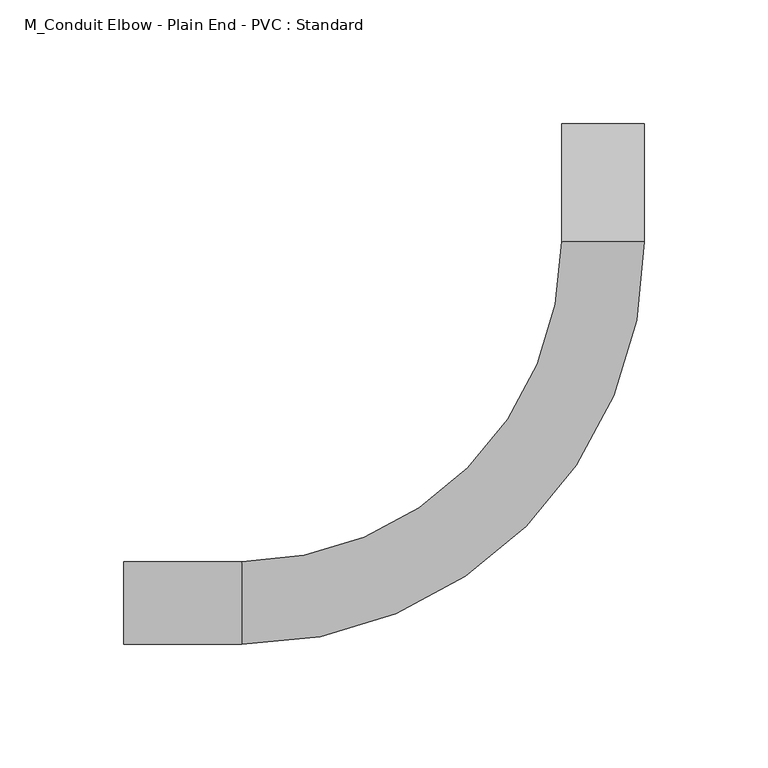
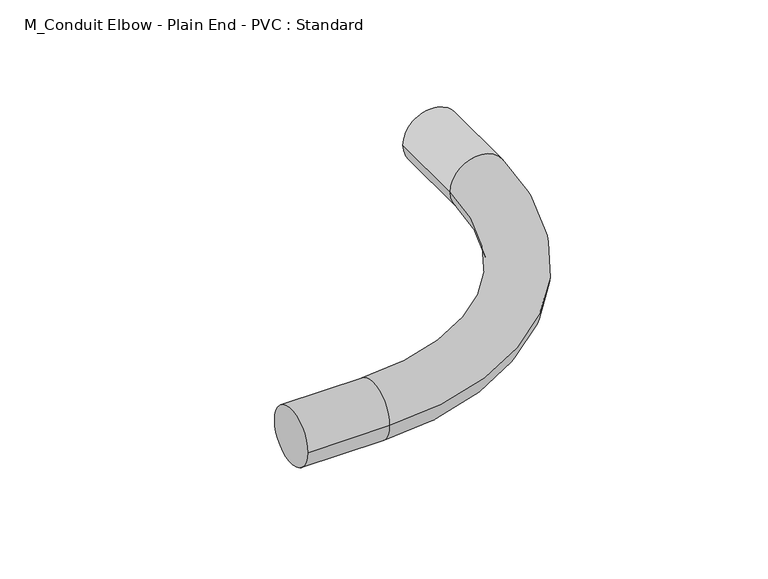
"""IFC4 building model written with IfcOpenShell, lengths in millimetres: cable carrier fitting geometry, M_Conduit Elbow - Plain End - PVC : Standard."""

from ifc_helpers import new_model, si_unit, point, frame, origin, place, context, project, spatial, circle_curve, ellipse_curve, trimmed, source, transform, mapped, element, save
from ifc_brep_helpers import plane_surface, cylinder_surface, revolved_surface, advanced_brep


def m_conduit_elbow_plain_end_pvc_standard_19d8f5be(model_context):
    return source(origin(), model_context, "Body", "AdvancedBrep", [
        advanced_brep(
        [(-193.6750038, -16.7005, 0.0), (-193.6750038, 16.7005, 0.0), (-146.0500038, -16.7005, 0.0), (-146.0500038, 16.7005, 0.0), (-16.7005038, 146.0500033, 0.0), (16.7004962, 146.0500042, 0.0), (16.700495, 193.6750042, 0.0), (-16.700505, 193.6750033, 0.0)],
        [
            (0, 1, circle_curve(frame((-193.6750038, 0.0, 0.0), z_axis=(-1.0, 0.0, 0.0), x_axis=(0.0, 1.0, 0.0)), 16.7005)),
            (1, 0, circle_curve(frame((-193.6750038, 0.0, 0.0), z_axis=(-1.0, 0.0, 0.0), x_axis=(0.0, 1.0, 0.0)), 16.7005)),
            (0, 2),
            (2, 3, circle_curve(frame((-146.0500038, 0.0, 0.0), z_axis=(-1.0, 0.0, 0.0), x_axis=(0.0, 1.0, 0.0)), 16.7005)),
            (3, 1),
            (3, 2, circle_curve(frame((-146.0500038, 0.0, 0.0), z_axis=(-1.0, 0.0, 0.0), x_axis=(0.0, 1.0, 0.0)), 16.7005)),
            (4, 3, circle_curve(frame((-146.0500038, 146.05, 0.0), z_axis=(0.0, 0.0, -1.0), x_axis=(0.0, -1.0, 0.0)), 129.3495)),
            (2, 5, circle_curve(frame((-146.0500038, 146.05, 0.0), z_axis=(0.0, 0.0, 1.0), x_axis=(0.0, -1.0, 0.0)), 162.7505)),
            (5, 4, circle_curve(frame((-3.8e-06, 146.0500038, 0.0), z_axis=(2.5772863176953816e-08, -0.9999999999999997, 0.0), x_axis=(-0.9999999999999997, -2.5772863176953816e-08, 0.0)), 16.7005)),
            (4, 5, circle_curve(frame((-3.8e-06, 146.0500038, 0.0), z_axis=(2.5772863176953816e-08, -0.9999999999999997, 0.0), x_axis=(-0.9999999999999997, -2.5772863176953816e-08, 0.0)), 16.7005)),
            (6, 7, circle_curve(frame((-5e-06, 193.6750038, 0.0), z_axis=(-2.5772863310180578e-08, 0.9999999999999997, 0.0), x_axis=(-0.9999999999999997, -2.5772863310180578e-08, 0.0)), 16.7005)),
            (7, 6, circle_curve(frame((-5e-06, 193.6750038, 0.0), z_axis=(-2.5772863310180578e-08, 0.9999999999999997, 0.0), x_axis=(-0.9999999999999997, -2.5772863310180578e-08, 0.0)), 16.7005)),
            (5, 6),
            (7, 4),
        ],
        [
            plane_surface(frame((-193.6750038, 0.0, 0.0), z_axis=(-1.0, 0.0, 0.0), x_axis=(0.0, 0.0, 1.0))),
            cylinder_surface(frame((-193.6750038, 0.0, 0.0), z_axis=(-1.0, 0.0, 0.0), x_axis=(0.0, 1.0, 0.0)), 16.7005),
            revolved_surface(trimmed(ellipse_curve(frame((-146.0500038, 0.0, 0.0), z_axis=(-1.0, 0.0, 0.0), x_axis=(0.0, 1.0, 0.0)), 16.7005, 16.7005), [point((-146.0500038, -16.7005, 0.0))], [point((-146.0500038, 16.7005, 0.0))], True, "CARTESIAN"), (-146.0500038, 146.05, 0.0), (0.0, 0.0, 1.0)),
            revolved_surface(trimmed(ellipse_curve(frame((-146.0500038, 0.0, 0.0), z_axis=(-1.0, 0.0, 0.0), x_axis=(0.0, 1.0, 0.0)), 16.7005, 16.7005), [point((-146.0500038, 16.7005, 0.0))], [point((-146.0500038, -16.7005, 0.0))], True, "CARTESIAN"), (-146.0500038, 146.05, 0.0), (0.0, 0.0, 1.0)),
            plane_surface(frame((-5e-06, 193.6750038, 0.0), z_axis=(-2.5772863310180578e-08, 0.9999999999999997, 0.0), x_axis=(0.0, 0.0, 1.0))),
            cylinder_surface(frame((-3.8e-06, 146.0500038, 0.0), z_axis=(2.5772863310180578e-08, -0.9999999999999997, 0.0), x_axis=(-0.9999999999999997, -2.5772863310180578e-08, 0.0)), 16.7005),
        ],
        [
            (0, [[1, 2]]),
            (1, [[-1, 3, 4, 5]]),
            (1, [[-2, -5, 6, -3]]),
            (2, [[7, -4, 8, 9]]),
            (3, [[-8, -6, -7, 10]]),
            (4, [[11, 12]]),
            (5, [[-9, 13, -12, 14]]),
            (5, [[-10, -14, -11, -13]]),
        ],
    ),
    ])


if __name__ == "__main__":
    model = new_model("IFC4")
    model_context = context("Model", 3, world=origin())
    ifc_project = project(units=[si_unit("LENGTHUNIT", "METRE", prefix="MILLI")], contexts=[model_context])
    site = spatial("IfcSite", under=ifc_project)
    building = spatial("IfcBuilding", under=site)
    placement = place(None, origin())
    m_conduit_elbow_plain_end_pvc_standard_shape = m_conduit_elbow_plain_end_pvc_standard_19d8f5be(model_context)
    element("IfcCableCarrierFitting", 1, ObjectType="M_Conduit Elbow - Plain End - PVC : Standard", at=placement, inside=building, context=model_context, shape_type="MappedRepresentation", body=[
        mapped(m_conduit_elbow_plain_end_pvc_standard_shape, transform((0.0, 0.0, 0.0), x_axis=(1.0, 0.0, 0.0), y_axis=(0.0, 1.0, 0.0), z_axis=(0.0, 0.0, 1.0))),
    ])
    save(model, "model.ifc")
